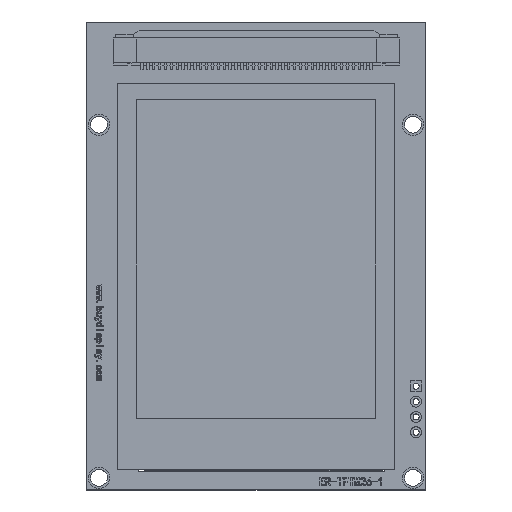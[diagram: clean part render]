
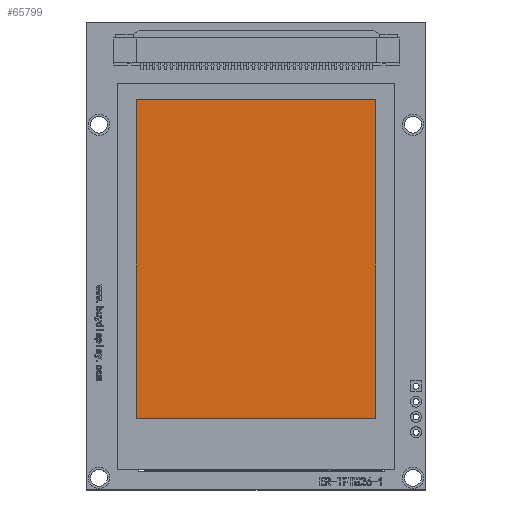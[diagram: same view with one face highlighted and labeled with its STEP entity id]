
A CAD part, top view. The second image highlights one B-rep face of the part: STEP entity #65799.
In plain terms, the highlighted free-form (B-spline) face has degree [1, 1] with [2, 2] control points.
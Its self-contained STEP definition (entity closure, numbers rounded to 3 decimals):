
#153=(GEOMETRIC_REPRESENTATION_CONTEXT(2)PARAMETRIC_REPRESENTATION_CONTEXT()REPRESENTATION_CONTEXT('',''));
#65539=CARTESIAN_POINT('',(8.2,64.65,0.8));
#65540=CARTESIAN_POINT('',(8.2,64.65,3.3));
#65541=CARTESIAN_POINT('',(47.8,64.65,0.8));
#65542=CARTESIAN_POINT('',(47.8,64.65,3.3));
#65543=B_SPLINE_SURFACE_WITH_KNOTS('',1,1,((#65539,#65540),(#65541,#65542)),.UNSPECIFIED.,.F.,.F.,.U.,(2,2),(2,2),(0.008,0.048),(-0.003,0.),.UNSPECIFIED.);
#65569=CARTESIAN_POINT('',(8.2,64.65,3.3));
#65570=VERTEX_POINT('',#65569);
#65571=CARTESIAN_POINT('',(8.2,11.85,0.8));
#65572=CARTESIAN_POINT('',(8.2,64.65,0.8));
#65573=CARTESIAN_POINT('',(8.2,11.85,3.3));
#65574=CARTESIAN_POINT('',(8.2,64.65,3.3));
#65575=B_SPLINE_SURFACE_WITH_KNOTS('',1,1,((#65571,#65572),(#65573,#65574)),.UNSPECIFIED.,.F.,.F.,.U.,(2,2),(2,2),(-0.003,0.),(0.012,0.065),.UNSPECIFIED.);
#65592=CARTESIAN_POINT('',(47.8,64.65,3.3));
#65593=VERTEX_POINT('',#65592);
#65594=CARTESIAN_POINT('',(47.8,11.85,3.3));
#65595=CARTESIAN_POINT('',(47.8,64.65,3.3));
#65596=CARTESIAN_POINT('',(8.2,11.85,3.3));
#65597=CARTESIAN_POINT('',(8.2,64.65,3.3));
#65598=B_SPLINE_SURFACE_WITH_KNOTS('',1,1,((#65594,#65595),(#65596,#65597)),.UNSPECIFIED.,.F.,.F.,.U.,(2,2),(2,2),(-0.048,-0.008),(0.012,0.065),.UNSPECIFIED.);
#65599=CARTESIAN_POINT('',(0.048,0.));
#65600=CARTESIAN_POINT('',(0.008,0.));
#65601=B_SPLINE_CURVE_WITH_KNOTS('',1,(#65599,#65600),.UNSPECIFIED.,.F.,.F.,(2,2),(-0.048,-0.008),.UNSPECIFIED.);
#65602=DEFINITIONAL_REPRESENTATION('',(#65601),#153);
#65603=PCURVE('',#65543,#65602);
#65604=CARTESIAN_POINT('',(-0.048,0.065));
#65605=CARTESIAN_POINT('',(-0.008,0.065));
#65606=B_SPLINE_CURVE_WITH_KNOTS('',1,(#65604,#65605),.UNSPECIFIED.,.F.,.F.,(2,2),(-0.048,-0.008),.UNSPECIFIED.);
#65607=DEFINITIONAL_REPRESENTATION('',(#65606),#153);
#65608=PCURVE('',#65598,#65607);
#65609=CARTESIAN_POINT('',(47.8,64.65,3.3));
#65610=CARTESIAN_POINT('',(8.2,64.65,3.3));
#65611=B_SPLINE_CURVE_WITH_KNOTS('',1,(#65609,#65610),.UNSPECIFIED.,.F.,.F.,(2,2),(-0.048,-0.008),.UNSPECIFIED.);
#65612=INTERSECTION_CURVE('',#65611,(#65603,#65608),.PCURVE_S1.);
#65613=EDGE_CURVE('',#65593,#65570,#65612,.T.);
#65615=CARTESIAN_POINT('',(47.8,64.65,0.8));
#65616=CARTESIAN_POINT('',(47.8,64.65,3.3));
#65617=CARTESIAN_POINT('',(47.8,11.85,0.8));
#65618=CARTESIAN_POINT('',(47.8,11.85,3.3));
#65619=B_SPLINE_SURFACE_WITH_KNOTS('',1,1,((#65615,#65616),(#65617,#65618)),.UNSPECIFIED.,.F.,.F.,.U.,(2,2),(2,2),(-0.065,-0.012),(-0.003,0.),.UNSPECIFIED.);
#65657=CARTESIAN_POINT('',(8.2,11.85,3.3));
#65658=VERTEX_POINT('',#65657);
#65659=CARTESIAN_POINT('',(8.2,11.85,3.3));
#65660=CARTESIAN_POINT('',(47.8,11.85,3.3));
#65661=CARTESIAN_POINT('',(8.2,11.85,0.8));
#65662=CARTESIAN_POINT('',(47.8,11.85,0.8));
#65663=B_SPLINE_SURFACE_WITH_KNOTS('',1,1,((#65659,#65660),(#65661,#65662)),.UNSPECIFIED.,.F.,.F.,.U.,(2,2),(2,2),(0.,0.003),(0.008,0.048),.UNSPECIFIED.);
#65680=CARTESIAN_POINT('',(0.,0.012));
#65681=CARTESIAN_POINT('',(0.,0.065));
#65682=B_SPLINE_CURVE_WITH_KNOTS('',1,(#65680,#65681),.UNSPECIFIED.,.F.,.F.,(2,2),(0.012,0.065),.UNSPECIFIED.);
#65683=DEFINITIONAL_REPRESENTATION('',(#65682),#153);
#65684=PCURVE('',#65575,#65683);
#65685=CARTESIAN_POINT('',(-0.008,0.012));
#65686=CARTESIAN_POINT('',(-0.008,0.065));
#65687=B_SPLINE_CURVE_WITH_KNOTS('',1,(#65685,#65686),.UNSPECIFIED.,.F.,.F.,(2,2),(0.012,0.065),.UNSPECIFIED.);
#65688=DEFINITIONAL_REPRESENTATION('',(#65687),#153);
#65689=PCURVE('',#65598,#65688);
#65690=CARTESIAN_POINT('',(8.2,11.85,3.3));
#65691=CARTESIAN_POINT('',(8.2,64.65,3.3));
#65692=B_SPLINE_CURVE_WITH_KNOTS('',1,(#65690,#65691),.UNSPECIFIED.,.F.,.F.,(2,2),(0.012,0.065),.UNSPECIFIED.);
#65693=INTERSECTION_CURVE('',#65692,(#65684,#65689),.PCURVE_S1.);
#65694=EDGE_CURVE('',#65658,#65570,#65693,.T.);
#65718=CARTESIAN_POINT('',(47.8,11.85,3.3));
#65719=VERTEX_POINT('',#65718);
#65736=CARTESIAN_POINT('',(0.,0.048));
#65737=CARTESIAN_POINT('',(0.,0.008));
#65738=B_SPLINE_CURVE_WITH_KNOTS('',1,(#65736,#65737),.UNSPECIFIED.,.F.,.F.,(2,2),(-0.048,-0.008),.UNSPECIFIED.);
#65739=DEFINITIONAL_REPRESENTATION('',(#65738),#153);
#65740=PCURVE('',#65663,#65739);
#65741=CARTESIAN_POINT('',(-0.048,0.012));
#65742=CARTESIAN_POINT('',(-0.008,0.012));
#65743=B_SPLINE_CURVE_WITH_KNOTS('',1,(#65741,#65742),.UNSPECIFIED.,.F.,.F.,(2,2),(-0.048,-0.008),.UNSPECIFIED.);
#65744=DEFINITIONAL_REPRESENTATION('',(#65743),#153);
#65745=PCURVE('',#65598,#65744);
#65746=CARTESIAN_POINT('',(47.8,11.85,3.3));
#65747=CARTESIAN_POINT('',(8.2,11.85,3.3));
#65748=B_SPLINE_CURVE_WITH_KNOTS('',1,(#65746,#65747),.UNSPECIFIED.,.F.,.F.,(2,2),(-0.048,-0.008),.UNSPECIFIED.);
#65749=INTERSECTION_CURVE('',#65748,(#65740,#65745),.PCURVE_S1.);
#65750=EDGE_CURVE('',#65719,#65658,#65749,.T.);
#65773=CARTESIAN_POINT('',(-0.012,0.));
#65774=CARTESIAN_POINT('',(-0.065,0.));
#65775=B_SPLINE_CURVE_WITH_KNOTS('',1,(#65773,#65774),.UNSPECIFIED.,.F.,.F.,(2,2),(0.012,0.065),.UNSPECIFIED.);
#65776=DEFINITIONAL_REPRESENTATION('',(#65775),#153);
#65777=PCURVE('',#65619,#65776);
#65778=CARTESIAN_POINT('',(-0.048,0.012));
#65779=CARTESIAN_POINT('',(-0.048,0.065));
#65780=B_SPLINE_CURVE_WITH_KNOTS('',1,(#65778,#65779),.UNSPECIFIED.,.F.,.F.,(2,2),(0.012,0.065),.UNSPECIFIED.);
#65781=DEFINITIONAL_REPRESENTATION('',(#65780),#153);
#65782=PCURVE('',#65598,#65781);
#65783=CARTESIAN_POINT('',(47.8,11.85,3.3));
#65784=CARTESIAN_POINT('',(47.8,64.65,3.3));
#65785=B_SPLINE_CURVE_WITH_KNOTS('',1,(#65783,#65784),.UNSPECIFIED.,.F.,.F.,(2,2),(0.012,0.065),.UNSPECIFIED.);
#65786=INTERSECTION_CURVE('',#65785,(#65777,#65782),.PCURVE_S1.);
#65787=EDGE_CURVE('',#65719,#65593,#65786,.T.);
#65793=ORIENTED_EDGE('',*,*,#65613,.T.);
#65794=ORIENTED_EDGE('',*,*,#65694,.F.);
#65795=ORIENTED_EDGE('',*,*,#65750,.F.);
#65796=ORIENTED_EDGE('',*,*,#65787,.T.);
#65797=EDGE_LOOP('',(#65793,#65794,#65795,#65796));
#65798=FACE_BOUND('',#65797,.T.);
#65799=ADVANCED_FACE('',(#65798),#65598,.F.);
